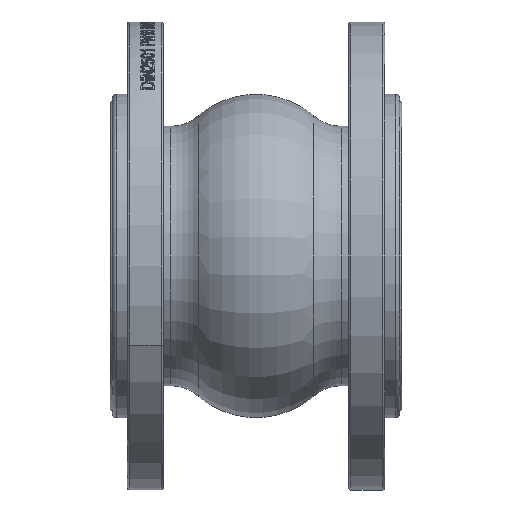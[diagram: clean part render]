
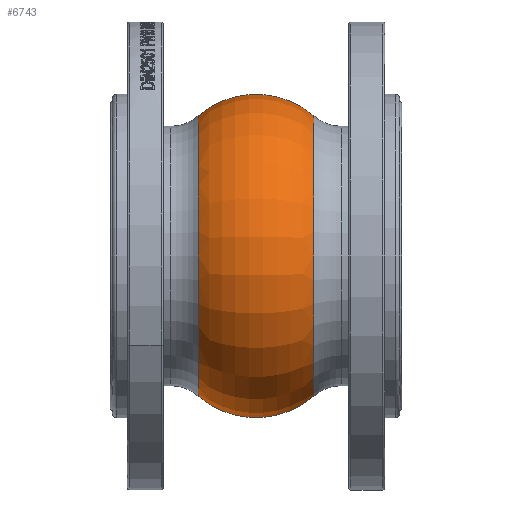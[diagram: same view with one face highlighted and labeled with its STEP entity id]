
A CAD part, front view. The second image highlights one B-rep face of the part: STEP entity #6743.
In plain terms, the highlighted toroidal (fillet/blend) face has major radius 34.48 mm and minor radius 41.52 mm.
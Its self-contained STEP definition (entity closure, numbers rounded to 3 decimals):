
#996 = DIRECTION ( 'NONE',  ( 0., 0., 1. ) ) ;
#1076 = TOROIDAL_SURFACE ( 'NONE', #8344, 34.48, 41.52 ) ;
#2278 = EDGE_CURVE ( 'NONE', #24558, #18384, #19016, .T. ) ;
#2548 = AXIS2_PLACEMENT_3D ( 'NONE', #27845, #16410, #23449 ) ;
#3300 = ORIENTED_EDGE ( 'NONE', *, *, #10963, .F. ) ;
#3682 = CARTESIAN_POINT ( 'NONE',  ( 27.169, 0., 65.876 ) ) ;
#3698 = DIRECTION ( 'NONE',  ( -1., 0., 0. ) ) ;
#4039 = AXIS2_PLACEMENT_3D ( 'NONE', #5951, #3698, #22224 ) ;
#4518 = CARTESIAN_POINT ( 'NONE',  ( -27.169, 0., -65.876 ) ) ;
#4759 = FACE_OUTER_BOUND ( 'NONE', #9933, .T. ) ;
#5863 = CARTESIAN_POINT ( 'NONE',  ( 0., 0., 34.48 ) ) ;
#5951 = CARTESIAN_POINT ( 'NONE',  ( -27.169, 0., 0. ) ) ;
#6530 = CARTESIAN_POINT ( 'NONE',  ( -27.169, 0., 65.876 ) ) ;
#6691 = DIRECTION ( 'NONE',  ( 0., 0., 1. ) ) ;
#6743 = ADVANCED_FACE ( 'NONE', ( #4759 ), #1076, .T. ) ;
#7937 = VERTEX_POINT ( 'NONE', #3682 ) ;
#8124 = CIRCLE ( 'NONE', #13062, 41.52 ) ;
#8344 = AXIS2_PLACEMENT_3D ( 'NONE', #19455, #26579, #996 ) ;
#9933 = EDGE_LOOP ( 'NONE', ( #3300, #12259, #18813, #14300 ) ) ;
#10963 = EDGE_CURVE ( 'NONE', #26386, #24558, #11439, .T. ) ;
#11046 = CARTESIAN_POINT ( 'NONE',  ( 0., 0., -34.48 ) ) ;
#11439 = CIRCLE ( 'NONE', #23211, 41.52 ) ;
#12259 = ORIENTED_EDGE ( 'NONE', *, *, #14842, .T. ) ;
#12642 = EDGE_CURVE ( 'NONE', #7937, #18384, #8124, .T. ) ;
#13062 = AXIS2_PLACEMENT_3D ( 'NONE', #5863, #17449, #27140 ) ;
#14300 = ORIENTED_EDGE ( 'NONE', *, *, #2278, .F. ) ;
#14842 = EDGE_CURVE ( 'NONE', #26386, #7937, #20844, .T. ) ;
#15624 = DIRECTION ( 'NONE',  ( 0., 1., 0. ) ) ;
#16410 = DIRECTION ( 'NONE',  ( -1., 0., 0. ) ) ;
#17449 = DIRECTION ( 'NONE',  ( 0., -1., 0. ) ) ;
#18384 = VERTEX_POINT ( 'NONE', #6530 ) ;
#18813 = ORIENTED_EDGE ( 'NONE', *, *, #12642, .T. ) ;
#19016 = CIRCLE ( 'NONE', #4039, 65.876 ) ;
#19455 = CARTESIAN_POINT ( 'NONE',  ( 0., 0., 0. ) ) ;
#20844 = CIRCLE ( 'NONE', #2548, 65.876 ) ;
#22224 = DIRECTION ( 'NONE',  ( 0., 0., 1. ) ) ;
#23211 = AXIS2_PLACEMENT_3D ( 'NONE', #11046, #15624, #6691 ) ;
#23449 = DIRECTION ( 'NONE',  ( 0., 0., 1. ) ) ;
#24558 = VERTEX_POINT ( 'NONE', #4518 ) ;
#26149 = CARTESIAN_POINT ( 'NONE',  ( 27.169, 0., -65.876 ) ) ;
#26386 = VERTEX_POINT ( 'NONE', #26149 ) ;
#26579 = DIRECTION ( 'NONE',  ( -1., 0., 0. ) ) ;
#27140 = DIRECTION ( 'NONE',  ( 0., 0., -1. ) ) ;
#27845 = CARTESIAN_POINT ( 'NONE',  ( 27.169, 0., 0. ) ) ;
